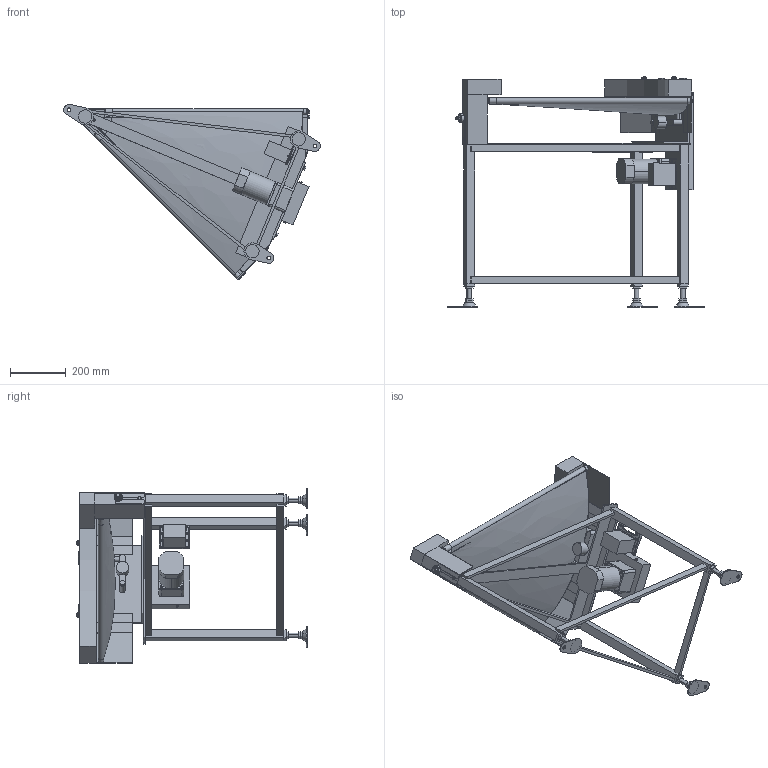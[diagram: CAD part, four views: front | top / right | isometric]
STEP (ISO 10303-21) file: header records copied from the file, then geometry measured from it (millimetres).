
FILE_DESCRIPTION( (''), '2;1');
FILE_NAME ('MMBC3-UD-309-600-45°-L-K-120.stp','2025-02-17T13:54:37',(''),(''),'spGate 20.6.2 (****-****-****-****)','','');
FILE_SCHEMA (('AUTOMOTIVE_DESIGN'));
Length unit declared in the file: millimetre
Products named in the file (39): NewModel; TEMP_X_T-prt0; TEMP_X_T-prt1; TEMP_X_T-prt2; TEMP_X_T-prt3; TEMP_X_T-prt4; TEMP_X_T-prt5; TEMP_X_T-prt6; TEMP_X_T-prt7; TEMP_X_T-prt8; TEMP_X_T-prt9; TEMP_X_T-prt10; TEMP_X_T-prt11; TEMP_X_T-prt12; TEMP_X_T-prt13; TEMP_X_T-prt14; TEMP_X_T-prt15; TEMP_X_T-prt16; TEMP_X_T-prt17; TEMP_X_T-prt18; TEMP_X_T-prt19; TEMP_X_T-prt20; TEMP_X_T-prt21; TEMP_X_T-prt22; TEMP_X_T-prt23; TEMP_X_T-prt24; TEMP_X_T-prt25; TEMP_X_T-prt26; TEMP_X_T-prt27; TEMP_X_T-prt28; TEMP_X_T-prt29; TEMP_X_T-prt30; TEMP_X_T-prt31; TEMP_X_T-prt32; TEMP_X_T-prt33; TEMP_X_T-prt34; TEMP_X_T-prt35; TEMP_X_T-prt36; TEMP_X_T-prt37
Assembly tree (38 placements, depth 2):
  NewModel
    TEMP_X_T-prt0
    TEMP_X_T-prt1
    TEMP_X_T-prt2
    TEMP_X_T-prt3
    TEMP_X_T-prt4
    TEMP_X_T-prt5
    TEMP_X_T-prt6
    TEMP_X_T-prt7
    TEMP_X_T-prt8
    TEMP_X_T-prt9
    TEMP_X_T-prt10
    TEMP_X_T-prt11
    TEMP_X_T-prt12
    TEMP_X_T-prt13
    TEMP_X_T-prt14
    TEMP_X_T-prt15
    TEMP_X_T-prt16
    TEMP_X_T-prt17
    TEMP_X_T-prt18
    TEMP_X_T-prt19
    TEMP_X_T-prt20
    TEMP_X_T-prt21
    TEMP_X_T-prt22
    TEMP_X_T-prt23
    TEMP_X_T-prt24
    TEMP_X_T-prt25
    TEMP_X_T-prt26
    TEMP_X_T-prt27
    TEMP_X_T-prt28
    TEMP_X_T-prt29
    TEMP_X_T-prt30
    TEMP_X_T-prt31
    TEMP_X_T-prt32
    TEMP_X_T-prt33
    TEMP_X_T-prt34
    TEMP_X_T-prt35
    TEMP_X_T-prt36
    TEMP_X_T-prt37
Bounding box: 921.74 x 827.52 x 629.18 mm (x, y, z)
Volume: 13405760.1 mm3; surface area: 3262336.8 mm2
Topology: 38 solids, 38 shells, 1063 faces, 2527 edges, 1632 vertices
Faces by surface type: plane 720, cylinder 267, bspline 72, sphere 4
Entity records: 55857 total; most frequent: CARTESIAN_POINT 9656, ORIENTED_EDGE 5046, DIRECTION 4996, COLOUR_RGB 3624, PRESENTATION_STYLE_ASSIGNMENT 3624, STYLED_ITEM 3624, EDGE_CURVE 2523, DRAUGHTING_PRE_DEFINED_CURVE_FONT 2523
